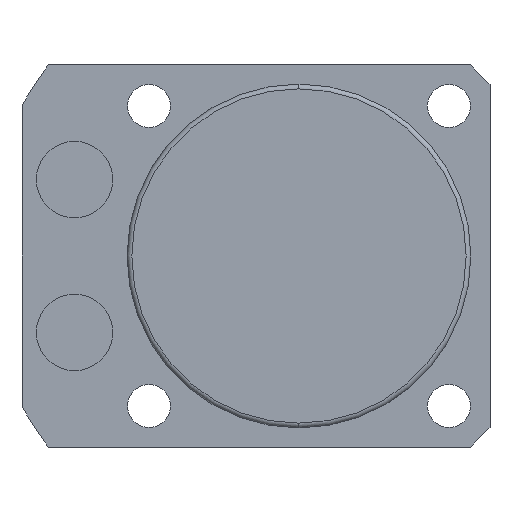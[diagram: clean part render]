
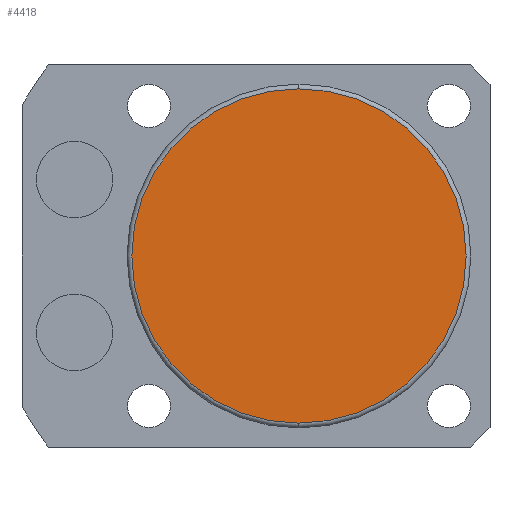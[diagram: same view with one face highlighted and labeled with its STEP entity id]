
A CAD part, front view. The second image highlights one B-rep face of the part: STEP entity #4418.
In plain terms, the highlighted planar face has unit normal (0, -1, 0).
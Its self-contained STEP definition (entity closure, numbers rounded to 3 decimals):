
#49 = PLANE ( 'NONE',  #2586 ) ;
#66 = CARTESIAN_POINT ( 'NONE',  ( 0., -115.5, 0. ) ) ;
#326 = ORIENTED_EDGE ( 'NONE', *, *, #1707, .T. ) ;
#474 = CARTESIAN_POINT ( 'NONE',  ( 0., -115.5, 0. ) ) ;
#802 = DIRECTION ( 'NONE',  ( 0., 0., -1. ) ) ;
#826 = AXIS2_PLACEMENT_3D ( 'NONE', #3991, #1994, #1235 ) ;
#930 = CIRCLE ( 'NONE', #826, 17.5 ) ;
#1235 = DIRECTION ( 'NONE',  ( 0., 0., -1. ) ) ;
#1542 = CARTESIAN_POINT ( 'NONE',  ( 0., -115.5, 17.5 ) ) ;
#1646 = VERTEX_POINT ( 'NONE', #1542 ) ;
#1707 = EDGE_CURVE ( 'NONE', #2778, #1646, #930, .T. ) ;
#1865 = AXIS2_PLACEMENT_3D ( 'NONE', #66, #3923, #802 ) ;
#1994 = DIRECTION ( 'NONE',  ( 0., -1., 0. ) ) ;
#2244 = FACE_OUTER_BOUND ( 'NONE', #2557, .T. ) ;
#2557 = EDGE_LOOP ( 'NONE', ( #326, #2809 ) ) ;
#2586 = AXIS2_PLACEMENT_3D ( 'NONE', #474, #3599, #4320 ) ;
#2778 = VERTEX_POINT ( 'NONE', #4611 ) ;
#2809 = ORIENTED_EDGE ( 'NONE', *, *, #3655, .T. ) ;
#3599 = DIRECTION ( 'NONE',  ( 0., -1., 0. ) ) ;
#3655 = EDGE_CURVE ( 'NONE', #1646, #2778, #3899, .T. ) ;
#3899 = CIRCLE ( 'NONE', #1865, 17.5 ) ;
#3923 = DIRECTION ( 'NONE',  ( 0., -1., 0. ) ) ;
#3991 = CARTESIAN_POINT ( 'NONE',  ( 0., -115.5, 0. ) ) ;
#4320 = DIRECTION ( 'NONE',  ( 0., 0., -1. ) ) ;
#4418 = ADVANCED_FACE ( 'NONE', ( #2244 ), #49, .T. ) ;
#4611 = CARTESIAN_POINT ( 'NONE',  ( 0., -115.5, -17.5 ) ) ;
